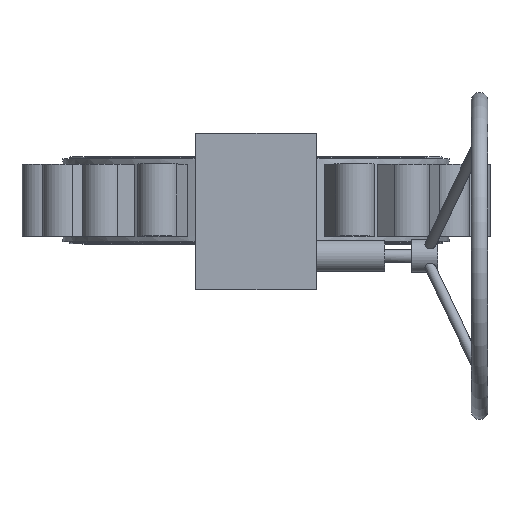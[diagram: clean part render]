
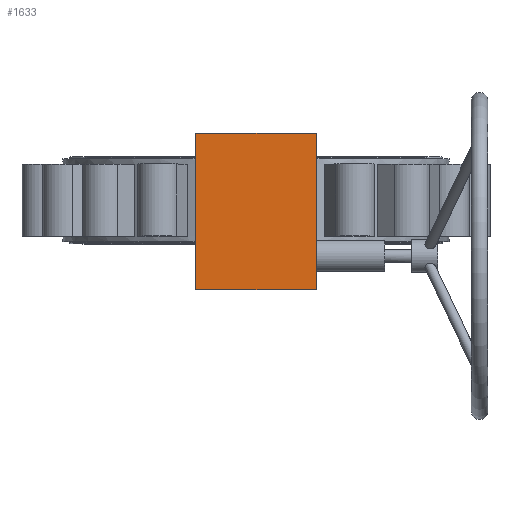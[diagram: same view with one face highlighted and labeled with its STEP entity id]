
A CAD part, top view. The second image highlights one B-rep face of the part: STEP entity #1633.
In plain terms, the highlighted planar face has unit normal (0, 0, 1) as drawn and (0, 1, 0) by its records, which use the part's own axes.
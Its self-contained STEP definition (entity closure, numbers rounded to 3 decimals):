
#30 = VERTEX_POINT ( 'NONE', #5092 ) ;
#488 = VECTOR ( 'NONE', #2002, 1000. ) ;
#511 = CARTESIAN_POINT ( 'NONE',  ( 96.368, 34.32, 120.662 ) ) ;
#917 = EDGE_CURVE ( 'NONE', #3895, #5305, #1225, .T. ) ;
#1064 = FACE_OUTER_BOUND ( 'NONE', #6510, .T. ) ;
#1193 = LINE ( 'NONE', #2505, #5384 ) ;
#1225 = LINE ( 'NONE', #3167, #6077 ) ;
#1607 = CARTESIAN_POINT ( 'NONE',  ( 96.368, 34.32, -118.144 ) ) ;
#1633 = ADVANCED_FACE ( 'NONE', ( #1064 ), #3023, .T. ) ;
#1702 = EDGE_CURVE ( 'NONE', #5305, #1923, #6560, .T. ) ;
#1923 = VERTEX_POINT ( 'NONE', #1607 ) ;
#2002 = DIRECTION ( 'NONE',  ( 1., 0., 0. ) ) ;
#2423 = EDGE_CURVE ( 'NONE', #30, #1923, #4912, .T. ) ;
#2483 = DIRECTION ( 'NONE',  ( 0., 1., 0. ) ) ;
#2505 = CARTESIAN_POINT ( 'NONE',  ( -87.279, 34.32, 120.662 ) ) ;
#2506 = DIRECTION ( 'NONE',  ( -1., 0., 0. ) ) ;
#2548 = DIRECTION ( 'NONE',  ( 0., 0., -1. ) ) ;
#3023 = PLANE ( 'NONE',  #6189 ) ;
#3167 = CARTESIAN_POINT ( 'NONE',  ( -87.279, 34.32, 120.662 ) ) ;
#3295 = CARTESIAN_POINT ( 'NONE',  ( -87.279, 34.32, 120.662 ) ) ;
#3561 = ORIENTED_EDGE ( 'NONE', *, *, #6349, .F. ) ;
#3895 = VERTEX_POINT ( 'NONE', #3295 ) ;
#4105 = CARTESIAN_POINT ( 'NONE',  ( -87.279, 34.32, -118.144 ) ) ;
#4425 = CARTESIAN_POINT ( 'NONE',  ( 96.368, 34.32, 120.662 ) ) ;
#4566 = CARTESIAN_POINT ( 'NONE',  ( 4.545, 34.32, 19.207 ) ) ;
#4687 = DIRECTION ( 'NONE',  ( 1., 0., 0. ) ) ;
#4912 = LINE ( 'NONE', #4105, #488 ) ;
#5092 = CARTESIAN_POINT ( 'NONE',  ( -87.279, 34.32, -118.144 ) ) ;
#5202 = ORIENTED_EDGE ( 'NONE', *, *, #2423, .F. ) ;
#5305 = VERTEX_POINT ( 'NONE', #4425 ) ;
#5384 = VECTOR ( 'NONE', #2548, 1000. ) ;
#5436 = ORIENTED_EDGE ( 'NONE', *, *, #1702, .T. ) ;
#5493 = ORIENTED_EDGE ( 'NONE', *, *, #917, .T. ) ;
#6077 = VECTOR ( 'NONE', #4687, 1000. ) ;
#6189 = AXIS2_PLACEMENT_3D ( 'NONE', #4566, #2483, #2506 ) ;
#6284 = DIRECTION ( 'NONE',  ( 0., 0., -1. ) ) ;
#6349 = EDGE_CURVE ( 'NONE', #3895, #30, #1193, .T. ) ;
#6475 = VECTOR ( 'NONE', #6284, 1000. ) ;
#6510 = EDGE_LOOP ( 'NONE', ( #3561, #5493, #5436, #5202 ) ) ;
#6560 = LINE ( 'NONE', #511, #6475 ) ;
